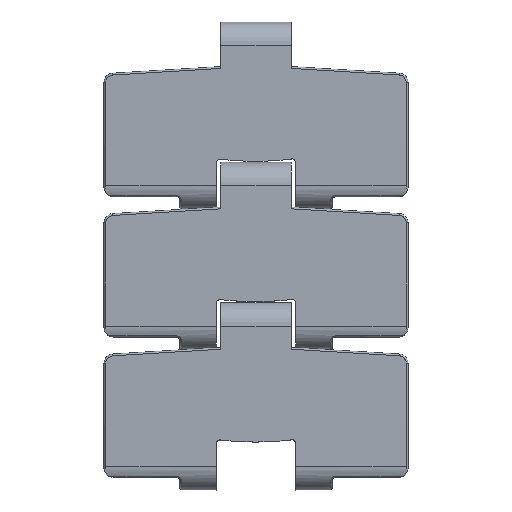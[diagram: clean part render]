
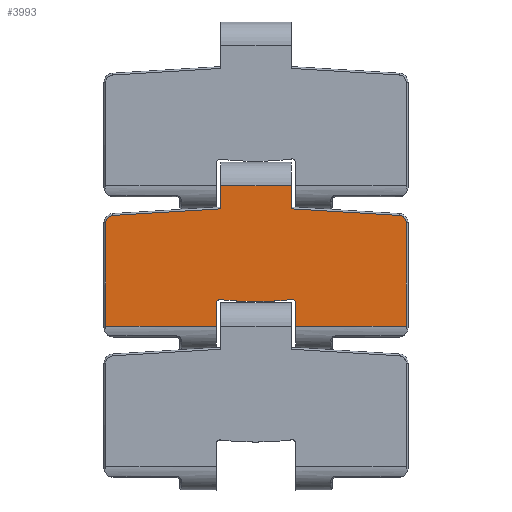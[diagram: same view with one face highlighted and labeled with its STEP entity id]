
A CAD part, top view. The second image highlights one B-rep face of the part: STEP entity #3993.
In plain terms, the highlighted planar face has unit normal (0, 0, 1).
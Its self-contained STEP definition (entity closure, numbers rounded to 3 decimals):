
#1236=CARTESIAN_POINT('Axis2P3D Location',(0.,0.,6.35)) ;
#3272=CARTESIAN_POINT('Vertex',(-10.75,38.1,6.35)) ;
#3275=CARTESIAN_POINT('Line Origine',(0.,38.1,6.35)) ;
#3279=CARTESIAN_POINT('Vertex',(-40.75,38.1,6.35)) ;
#3672=CARTESIAN_POINT('Vertex',(40.75,38.1,6.35)) ;
#3675=CARTESIAN_POINT('Line Origine',(0.,38.1,6.35)) ;
#3679=CARTESIAN_POINT('Vertex',(10.75,38.1,6.35)) ;
#3810=CARTESIAN_POINT('Vertex',(-40.75,66.15,6.35)) ;
#3813=CARTESIAN_POINT('Axis2P3D Location',(-38.75,66.15,6.35)) ;
#3817=CARTESIAN_POINT('Vertex',(-38.913,68.144,6.35)) ;
#3834=CARTESIAN_POINT('Line Origine',(-40.75,19.05,6.35)) ;
#3857=CARTESIAN_POINT('Line Origine',(-0.23,70.503,6.35)) ;
#3861=CARTESIAN_POINT('Vertex',(-9.55,69.935,6.35)) ;
#3885=CARTESIAN_POINT('Line Origine',(-9.55,73.067,6.35)) ;
#3889=CARTESIAN_POINT('Vertex',(-9.55,76.2,6.35)) ;
#3892=CARTESIAN_POINT('Line Origine',(-10.75,41.208,6.35)) ;
#3896=CARTESIAN_POINT('Vertex',(-10.75,44.317,6.35)) ;
#3899=CARTESIAN_POINT('Axis2P3D Location',(-9.75,44.317,6.35)) ;
#3903=CARTESIAN_POINT('Vertex',(-9.633,45.31,6.35)) ;
#3906=CARTESIAN_POINT('Axis2P3D Location',(-0.125,125.736,6.35)) ;
#3910=CARTESIAN_POINT('Vertex',(-0.125,44.75,6.35)) ;
#3913=CARTESIAN_POINT('Axis2P3D Location',(-0.125,125.736,6.35)) ;
#3917=CARTESIAN_POINT('Vertex',(9.383,45.31,6.35)) ;
#3920=CARTESIAN_POINT('Axis2P3D Location',(9.752,44.381,6.35)) ;
#3924=CARTESIAN_POINT('Vertex',(10.75,44.317,6.35)) ;
#3927=CARTESIAN_POINT('Line Origine',(10.75,41.208,6.35)) ;
#3932=CARTESIAN_POINT('Line Origine',(40.75,52.127,6.35)) ;
#3936=CARTESIAN_POINT('Vertex',(40.75,66.154,6.35)) ;
#3940=CARTESIAN_POINT('Control Point',(40.75,66.154,6.35)) ;
#3941=CARTESIAN_POINT('Control Point',(40.75,66.317,6.35)) ;
#3942=CARTESIAN_POINT('Control Point',(40.733,66.479,6.35)) ;
#3943=CARTESIAN_POINT('Control Point',(40.7,66.639,6.35)) ;
#3944=CARTESIAN_POINT('Control Point',(40.586,67.001,6.35)) ;
#3945=CARTESIAN_POINT('Control Point',(40.391,67.328,6.35)) ;
#3946=CARTESIAN_POINT('Control Point',(40.254,67.498,6.35)) ;
#3947=CARTESIAN_POINT('Control Point',(39.943,67.794,6.35)) ;
#3948=CARTESIAN_POINT('Control Point',(39.566,67.998,6.35)) ;
#3949=CARTESIAN_POINT('Control Point',(39.367,68.074,6.35)) ;
#3950=CARTESIAN_POINT('Control Point',(39.16,68.123,6.35)) ;
#3951=CARTESIAN_POINT('Control Point',(38.951,68.144,6.35)) ;
#3952=CARTESIAN_POINT('Vertex',(38.951,68.144,6.35)) ;
#3955=CARTESIAN_POINT('Line Origine',(24.251,69.041,6.35)) ;
#3959=CARTESIAN_POINT('Vertex',(9.55,69.939,6.35)) ;
#3962=CARTESIAN_POINT('Line Origine',(9.55,73.069,6.35)) ;
#3966=CARTESIAN_POINT('Vertex',(9.55,76.2,6.35)) ;
#3969=CARTESIAN_POINT('Line Origine',(0.,76.2,6.35)) ;
#1237=DIRECTION('Axis2P3D Direction',(0.,0.,-1.)) ;
#1238=DIRECTION('Axis2P3D XDirection',(0.,1.,0.)) ;
#3276=DIRECTION('Vector Direction',(1.,0.,0.)) ;
#3676=DIRECTION('Vector Direction',(1.,0.,0.)) ;
#3814=DIRECTION('Axis2P3D Direction',(-0.,0.,1.)) ;
#3835=DIRECTION('Vector Direction',(0.,1.,0.)) ;
#3858=DIRECTION('Vector Direction',(0.998,0.061,0.)) ;
#3886=DIRECTION('Vector Direction',(0.,1.,0.)) ;
#3893=DIRECTION('Vector Direction',(0.,1.,0.)) ;
#3900=DIRECTION('Axis2P3D Direction',(0.,0.,-1.)) ;
#3907=DIRECTION('Axis2P3D Direction',(0.,0.,-1.)) ;
#3914=DIRECTION('Axis2P3D Direction',(0.,0.,-1.)) ;
#3921=DIRECTION('Axis2P3D Direction',(0.,0.,-1.)) ;
#3928=DIRECTION('Vector Direction',(0.,1.,0.)) ;
#3933=DIRECTION('Vector Direction',(0.,1.,0.)) ;
#3956=DIRECTION('Vector Direction',(0.998,-0.061,0.)) ;
#3963=DIRECTION('Vector Direction',(0.,1.,0.)) ;
#3970=DIRECTION('Vector Direction',(1.,0.,0.)) ;
#1239=AXIS2_PLACEMENT_3D('Plane Axis2P3D',#1236,#1237,#1238) ;
#3815=AXIS2_PLACEMENT_3D('Circle Axis2P3D',#3813,#3814,$) ;
#3901=AXIS2_PLACEMENT_3D('Circle Axis2P3D',#3899,#3900,$) ;
#3908=AXIS2_PLACEMENT_3D('Circle Axis2P3D',#3906,#3907,$) ;
#3915=AXIS2_PLACEMENT_3D('Circle Axis2P3D',#3913,#3914,$) ;
#3922=AXIS2_PLACEMENT_3D('Circle Axis2P3D',#3920,#3921,$) ;
#3975=ORIENTED_EDGE('',*,*,#3891,.F.) ;
#3976=ORIENTED_EDGE('',*,*,#3863,.T.) ;
#3977=ORIENTED_EDGE('',*,*,#3819,.T.) ;
#3978=ORIENTED_EDGE('',*,*,#3838,.T.) ;
#3979=ORIENTED_EDGE('',*,*,#3281,.T.) ;
#3980=ORIENTED_EDGE('',*,*,#3898,.T.) ;
#3981=ORIENTED_EDGE('',*,*,#3905,.T.) ;
#3982=ORIENTED_EDGE('',*,*,#3912,.T.) ;
#3983=ORIENTED_EDGE('',*,*,#3919,.T.) ;
#3984=ORIENTED_EDGE('',*,*,#3926,.T.) ;
#3985=ORIENTED_EDGE('',*,*,#3931,.T.) ;
#3986=ORIENTED_EDGE('',*,*,#3681,.T.) ;
#3987=ORIENTED_EDGE('',*,*,#3938,.T.) ;
#3988=ORIENTED_EDGE('',*,*,#3954,.T.) ;
#3989=ORIENTED_EDGE('',*,*,#3961,.T.) ;
#3990=ORIENTED_EDGE('',*,*,#3968,.F.) ;
#3991=ORIENTED_EDGE('',*,*,#3973,.F.) ;
#3277=VECTOR('Line Direction',#3276,1.) ;
#3677=VECTOR('Line Direction',#3676,1.) ;
#3836=VECTOR('Line Direction',#3835,1.) ;
#3859=VECTOR('Line Direction',#3858,1.) ;
#3887=VECTOR('Line Direction',#3886,1.) ;
#3894=VECTOR('Line Direction',#3893,1.) ;
#3929=VECTOR('Line Direction',#3928,1.) ;
#3934=VECTOR('Line Direction',#3933,1.) ;
#3957=VECTOR('Line Direction',#3956,1.) ;
#3964=VECTOR('Line Direction',#3963,1.) ;
#3971=VECTOR('Line Direction',#3970,1.) ;
#3993=ADVANCED_FACE('PartBody',(#3992),#1240,.F.) ;
#3939=B_SPLINE_CURVE_WITH_KNOTS('',5,(#3940,#3941,#3942,#3943,#3944,#3945,#3946,#3947,#3948,#3949,#3950,#3951),.UNSPECIFIED.,.F.,.U.,(6,3,3,6),(7.698,8.999,10.721,12.405),.UNSPECIFIED.) ;
#3816=CIRCLE('generated circle',#3815,2.) ;
#3902=CIRCLE('generated circle',#3901,1.) ;
#3909=CIRCLE('generated circle',#3908,80.986) ;
#3916=CIRCLE('generated circle',#3915,80.986) ;
#3923=CIRCLE('generated circle',#3922,1.) ;
#3281=EDGE_CURVE('',#3280,#3273,#3278,.T.) ;
#3681=EDGE_CURVE('',#3680,#3673,#3678,.T.) ;
#3819=EDGE_CURVE('',#3818,#3811,#3816,.T.) ;
#3838=EDGE_CURVE('',#3811,#3280,#3837,.F.) ;
#3863=EDGE_CURVE('',#3862,#3818,#3860,.F.) ;
#3891=EDGE_CURVE('',#3862,#3890,#3888,.T.) ;
#3898=EDGE_CURVE('',#3273,#3897,#3895,.T.) ;
#3905=EDGE_CURVE('',#3897,#3904,#3902,.T.) ;
#3912=EDGE_CURVE('',#3904,#3911,#3909,.F.) ;
#3919=EDGE_CURVE('',#3911,#3918,#3916,.F.) ;
#3926=EDGE_CURVE('',#3918,#3925,#3923,.T.) ;
#3931=EDGE_CURVE('',#3925,#3680,#3930,.F.) ;
#3938=EDGE_CURVE('',#3673,#3937,#3935,.T.) ;
#3954=EDGE_CURVE('',#3937,#3953,#3939,.T.) ;
#3961=EDGE_CURVE('',#3953,#3960,#3958,.F.) ;
#3968=EDGE_CURVE('',#3967,#3960,#3965,.F.) ;
#3973=EDGE_CURVE('',#3890,#3967,#3972,.T.) ;
#3974=EDGE_LOOP('',(#3975,#3976,#3977,#3978,#3979,#3980,#3981,#3982,#3983,#3984,#3985,#3986,#3987,#3988,#3989,#3990,#3991)) ;
#3992=FACE_OUTER_BOUND('',#3974,.T.) ;
#3278=LINE('Line',#3275,#3277) ;
#3678=LINE('Line',#3675,#3677) ;
#3837=LINE('Line',#3834,#3836) ;
#3860=LINE('Line',#3857,#3859) ;
#3888=LINE('Line',#3885,#3887) ;
#3895=LINE('Line',#3892,#3894) ;
#3930=LINE('Line',#3927,#3929) ;
#3935=LINE('Line',#3932,#3934) ;
#3958=LINE('Line',#3955,#3957) ;
#3965=LINE('Line',#3962,#3964) ;
#3972=LINE('Line',#3969,#3971) ;
#1240=PLANE('',#1239) ;
#3273=VERTEX_POINT('',#3272) ;
#3280=VERTEX_POINT('',#3279) ;
#3673=VERTEX_POINT('',#3672) ;
#3680=VERTEX_POINT('',#3679) ;
#3811=VERTEX_POINT('',#3810) ;
#3818=VERTEX_POINT('',#3817) ;
#3862=VERTEX_POINT('',#3861) ;
#3890=VERTEX_POINT('',#3889) ;
#3897=VERTEX_POINT('',#3896) ;
#3904=VERTEX_POINT('',#3903) ;
#3911=VERTEX_POINT('',#3910) ;
#3918=VERTEX_POINT('',#3917) ;
#3925=VERTEX_POINT('',#3924) ;
#3937=VERTEX_POINT('',#3936) ;
#3953=VERTEX_POINT('',#3952) ;
#3960=VERTEX_POINT('',#3959) ;
#3967=VERTEX_POINT('',#3966) ;
